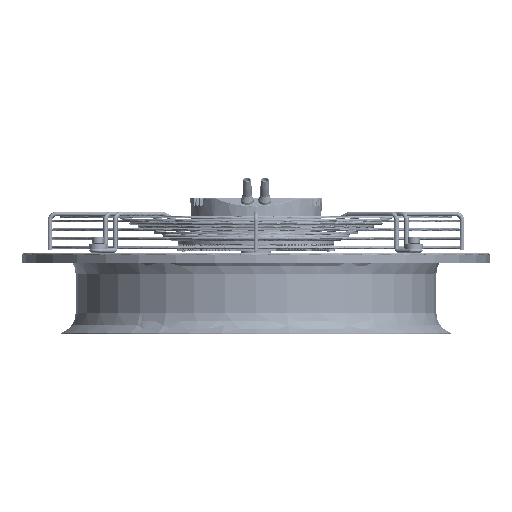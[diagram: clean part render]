
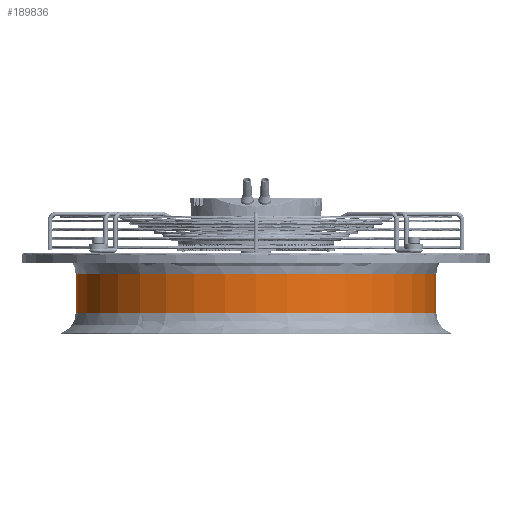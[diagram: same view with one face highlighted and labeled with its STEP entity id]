
A CAD part, front view. The second image highlights one B-rep face of the part: STEP entity #189836.
In plain terms, the highlighted cylindrical face has radius 203.499 mm (diameter 406.997 mm), a partial arc.
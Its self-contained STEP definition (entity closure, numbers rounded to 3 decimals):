
#837 = DIRECTION ( 'NONE',  ( 0., 0., -1. ) ) ;
#3065 = ORIENTED_EDGE ( 'NONE', *, *, #100819, .T. ) ;
#14466 = CARTESIAN_POINT ( 'NONE',  ( -203.498, 0., 81.825 ) ) ;
#21470 = CARTESIAN_POINT ( 'NONE',  ( 0., 0., 81.825 ) ) ;
#21951 = EDGE_CURVE ( 'NONE', #93874, #244104, #183264, .T. ) ;
#22977 = LINE ( 'NONE', #262552, #282606 ) ;
#35327 = DIRECTION ( 'NONE',  ( 0., 0., -1. ) ) ;
#38390 = EDGE_CURVE ( 'NONE', #93874, #289442, #209416, .T. ) ;
#47433 = FACE_OUTER_BOUND ( 'NONE', #172180, .T. ) ;
#52381 = ORIENTED_EDGE ( 'NONE', *, *, #138894, .T. ) ;
#67490 = VECTOR ( 'NONE', #156936, 1000. ) ;
#71933 = DIRECTION ( 'NONE',  ( -1., 0., 0. ) ) ;
#93874 = VERTEX_POINT ( 'NONE', #201324 ) ;
#96340 = CYLINDRICAL_SURFACE ( 'NONE', #267511, 203.498 ) ;
#99969 = CARTESIAN_POINT ( 'NONE',  ( 0., 0., 12.253 ) ) ;
#100819 = EDGE_CURVE ( 'NONE', #232003, #244104, #279724, .T. ) ;
#138894 = EDGE_CURVE ( 'NONE', #289442, #232003, #22977, .T. ) ;
#144934 = DIRECTION ( 'NONE',  ( -1., 0., 0. ) ) ;
#154710 = DIRECTION ( 'NONE',  ( 0., 0., -1. ) ) ;
#156936 = DIRECTION ( 'NONE',  ( 0., 0., -1. ) ) ;
#165755 = CARTESIAN_POINT ( 'NONE',  ( -203.498, 0., 38.175 ) ) ;
#172180 = EDGE_LOOP ( 'NONE', ( #266978, #287446, #52381, #3065 ) ) ;
#183264 = LINE ( 'NONE', #193263, #67490 ) ;
#189836 = ADVANCED_FACE ( 'NONE', ( #47433 ), #96340, .T. ) ;
#193263 = CARTESIAN_POINT ( 'NONE',  ( 203.498, 0., 12.253 ) ) ;
#201324 = CARTESIAN_POINT ( 'NONE',  ( 203.498, 0., 81.825 ) ) ;
#204112 = CARTESIAN_POINT ( 'NONE',  ( 0., 0., 38.175 ) ) ;
#206534 = CARTESIAN_POINT ( 'NONE',  ( 203.498, 0., 38.175 ) ) ;
#209416 = CIRCLE ( 'NONE', #283600, 203.498 ) ;
#213280 = AXIS2_PLACEMENT_3D ( 'NONE', #204112, #269948, #71933 ) ;
#232003 = VERTEX_POINT ( 'NONE', #165755 ) ;
#244104 = VERTEX_POINT ( 'NONE', #206534 ) ;
#262552 = CARTESIAN_POINT ( 'NONE',  ( -203.498, 0., 12.253 ) ) ;
#266978 = ORIENTED_EDGE ( 'NONE', *, *, #21951, .F. ) ;
#267511 = AXIS2_PLACEMENT_3D ( 'NONE', #99969, #35327, #144934 ) ;
#269948 = DIRECTION ( 'NONE',  ( 0., 0., 1. ) ) ;
#270330 = DIRECTION ( 'NONE',  ( -1., 0., 0. ) ) ;
#279724 = CIRCLE ( 'NONE', #213280, 203.498 ) ;
#282606 = VECTOR ( 'NONE', #154710, 1000. ) ;
#283600 = AXIS2_PLACEMENT_3D ( 'NONE', #21470, #837, #270330 ) ;
#287446 = ORIENTED_EDGE ( 'NONE', *, *, #38390, .T. ) ;
#289442 = VERTEX_POINT ( 'NONE', #14466 ) ;
